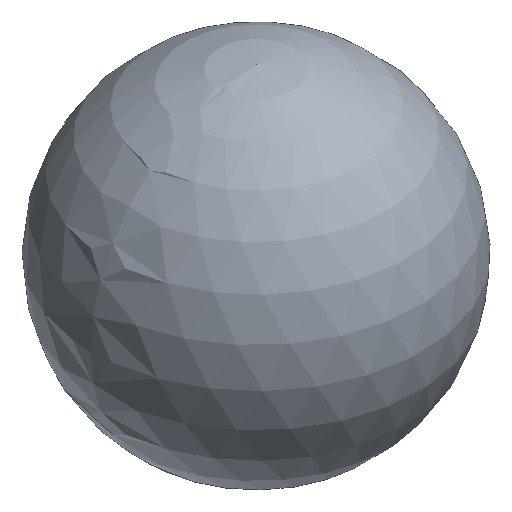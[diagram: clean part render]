
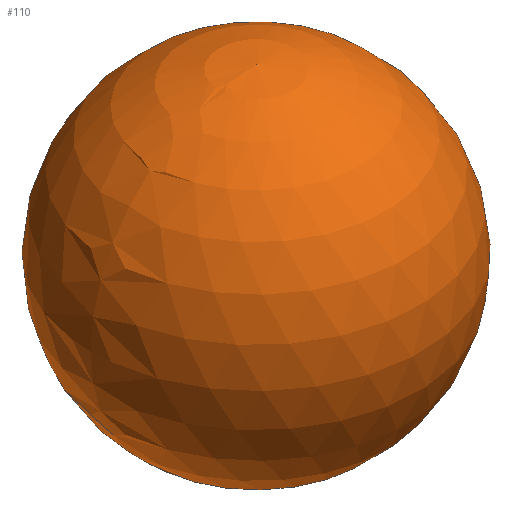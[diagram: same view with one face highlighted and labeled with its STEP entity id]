
A CAD part, isometric view. The second image highlights one B-rep face of the part: STEP entity #110.
In plain terms, the highlighted spherical face has radius 250 mm.
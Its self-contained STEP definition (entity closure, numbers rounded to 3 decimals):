
#45=FACE_OUTER_BOUND('',#52,.T.);
#52=EDGE_LOOP('',(#83,#84));
#59=CIRCLE('',#134,250.);
#60=VERTEX_POINT('',#173);
#61=VERTEX_POINT('',#174);
#70=EDGE_CURVE('',#60,#61,#59,.T.);
#83=ORIENTED_EDGE('',*,*,#70,.T.);
#84=ORIENTED_EDGE('',*,*,#70,.F.);
#109=SPHERICAL_SURFACE('',#133,250.);
#110=ADVANCED_FACE('',(#45),#109,.T.);
#133=AXIS2_PLACEMENT_3D('',#172,#143,#144);
#134=AXIS2_PLACEMENT_3D('',#175,#145,#146);
#143=DIRECTION('center_axis',(0.,0.,1.));
#144=DIRECTION('ref_axis',(1.,0.,0.));
#145=DIRECTION('center_axis',(0.,-1.,0.));
#146=DIRECTION('ref_axis',(-1.,0.,0.));
#172=CARTESIAN_POINT('Origin',(0.,0.,0.));
#173=CARTESIAN_POINT('',(0.,0.,250.));
#174=CARTESIAN_POINT('',(0.,0.,-250.));
#175=CARTESIAN_POINT('Origin',(0.,0.,0.));
